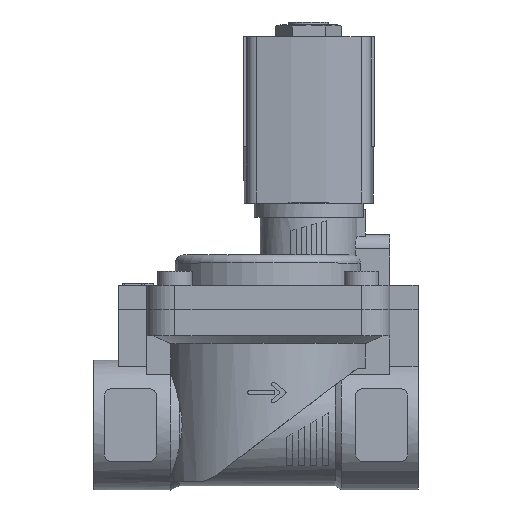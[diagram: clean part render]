
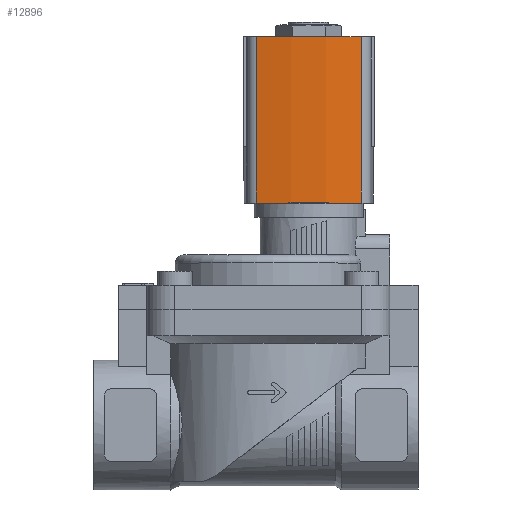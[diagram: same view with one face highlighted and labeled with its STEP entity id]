
A CAD part, top view. The second image highlights one B-rep face of the part: STEP entity #12896.
In plain terms, the highlighted cylindrical face has radius 60 mm (diameter 120 mm), a partial arc.
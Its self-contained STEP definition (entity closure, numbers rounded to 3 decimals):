
#239=CYLINDRICAL_SURFACE('',#13774,60.);
#1251=LINE('',#19731,#2345);
#1252=LINE('',#19735,#2346);
#2345=VECTOR('',#16357,1000.);
#2346=VECTOR('',#16362,1000.);
#4748=ORIENTED_EDGE('',*,*,#6784,.T.);
#4749=ORIENTED_EDGE('',*,*,#6785,.F.);
#4750=ORIENTED_EDGE('',*,*,#6070,.F.);
#4751=ORIENTED_EDGE('',*,*,#6783,.T.);
#6070=EDGE_CURVE('',#7344,#7345,#8078,.T.);
#6783=EDGE_CURVE('',#7344,#7850,#1251,.T.);
#6784=EDGE_CURVE('',#7850,#7851,#8172,.T.);
#6785=EDGE_CURVE('',#7345,#7851,#1252,.T.);
#7344=VERTEX_POINT('',#18385);
#7345=VERTEX_POINT('',#18387);
#7850=VERTEX_POINT('',#19730);
#7851=VERTEX_POINT('',#19734);
#8078=CIRCLE('',#13554,60.);
#8172=CIRCLE('',#13775,60.);
#8612=EDGE_LOOP('',(#4748,#4749,#4750,#4751));
#9207=FACE_BOUND('',#8612,.T.);
#12896=ADVANCED_FACE('',(#9207),#239,.T.);
#13554=AXIS2_PLACEMENT_3D('',#18386,#15298,#15299);
#13774=AXIS2_PLACEMENT_3D('',#19732,#16358,#16359);
#13775=AXIS2_PLACEMENT_3D('',#19733,#16360,#16361);
#15298=DIRECTION('',(0.,1.,0.));
#15299=DIRECTION('',(1.,0.,0.));
#16357=DIRECTION('',(0.,-1.,0.));
#16358=DIRECTION('',(0.,-1.,0.));
#16359=DIRECTION('',(0.,0.,-1.));
#16360=DIRECTION('',(0.,1.,0.));
#16361=DIRECTION('',(1.,0.,0.));
#16362=DIRECTION('',(0.,-1.,0.));
#18385=CARTESIAN_POINT('',(19.078,15.,12.986));
#18386=CARTESIAN_POINT('',(-39.5,15.,0.));
#18387=CARTESIAN_POINT('',(19.078,15.,-12.986));
#19730=CARTESIAN_POINT('',(19.078,-26.,12.986));
#19731=CARTESIAN_POINT('',(19.078,15.,12.986));
#19732=CARTESIAN_POINT('',(-39.5,15.,0.));
#19733=CARTESIAN_POINT('',(-39.5,-26.,0.));
#19734=CARTESIAN_POINT('',(19.078,-26.,-12.986));
#19735=CARTESIAN_POINT('',(19.078,15.,-12.986));
